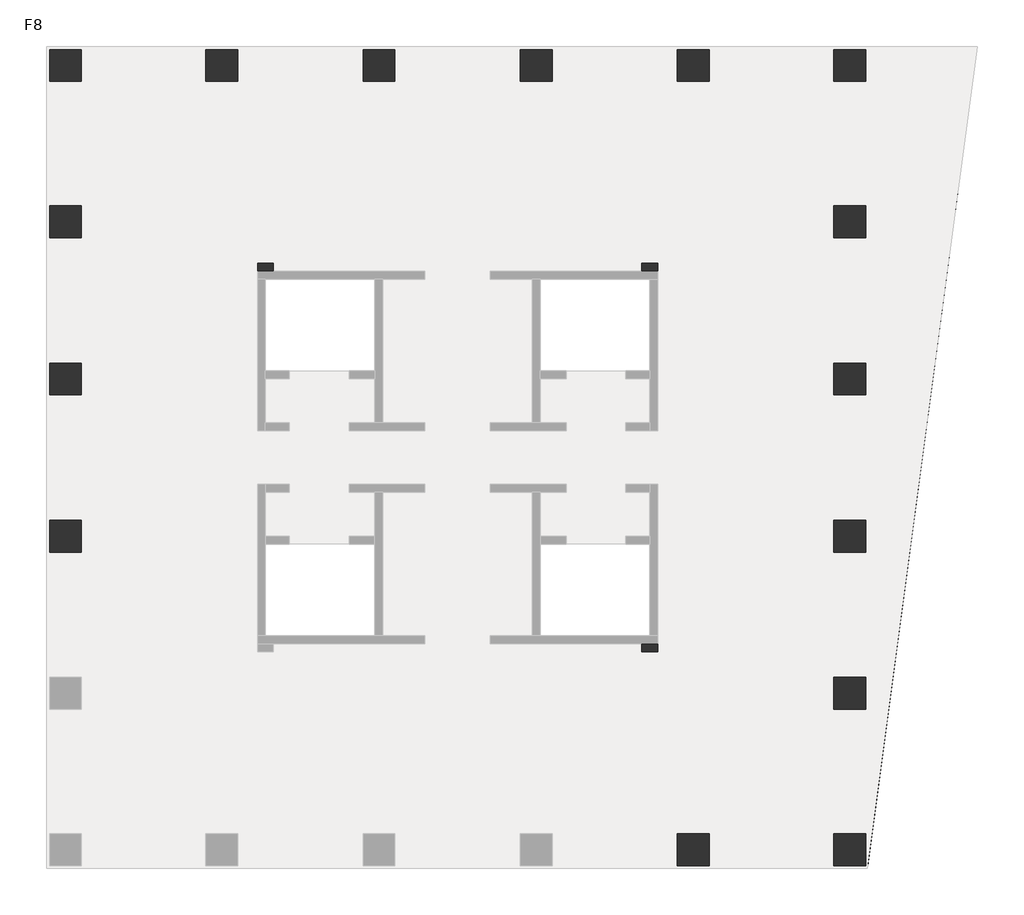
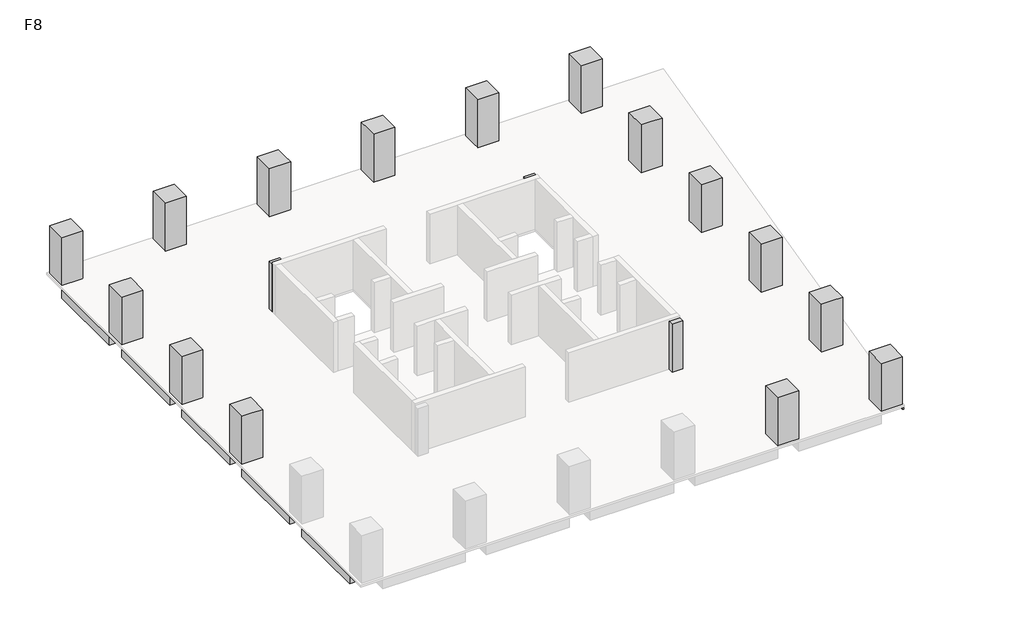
# One storey, part 2 of 2: 21 beams, 18 columns.
"""IFC4 building model written with IfcOpenShell, lengths in millimetres."""

from ifc_helpers import new_model, si_unit, frame, origin, place, context, project, spatial, polyline, outline, extrude, faceted_brep, element, save

model = new_model("IFC4")

# Units and contexts
model_context = context("Model", 3, world=origin())
ifc_project = project(units=[si_unit("LENGTHUNIT", "METRE", prefix="MILLI")], contexts=[model_context])

# Site, building, storey
site = spatial("IfcSite", under=ifc_project)
building = spatial("IfcBuilding", under=site)
storey = spatial("IfcBuildingStorey", under=building, Name="F8", Elevation=32000.0)

# Beams
placement = place(None, origin())
element("IfcBeam", 1, ObjectType="混凝土 - 矩形梁 : KL(5)-800x1000", at=placement, inside=storey, context=model_context, shape_type="SweptSolid", body=[
    extrude(outline(polyline([(25327.3257831, 27051.0498658), (25327.3257831, 26251.0498658), (19077.3257831, 26251.0498658), (19077.3257831, 27051.0498658), (25327.3257831, 27051.0498658)])), frame((0.0, 0.0, 31000.0), z_axis=(0.0, 0.0, 1.0), x_axis=(1.0, 0.0, 0.0)), (0.0, 0.0, 1.0), 840.0),
    extrude(outline(polyline([(-12472.6742169, 26251.0498658), (-12472.6742169, 27051.0498658), (-6222.6742169, 27051.0498658), (-6222.6742169, 26251.0498658), (-12472.6742169, 26251.0498658)])), frame((0.0, 0.0, 31000.0), z_axis=(0.0, 0.0, 1.0), x_axis=(1.0, 0.0, 0.0)), (0.0, 0.0, 1.0), 840.0),
    extrude(outline(polyline([(-4622.6742169, 26251.0498658), (-4622.6742169, 27051.0498658), (1677.3257831, 27051.0498658), (1677.3257831, 26251.0498658), (-4622.6742169, 26251.0498658)])), frame((0.0, 0.0, 31000.0), z_axis=(0.0, 0.0, 1.0), x_axis=(1.0, 0.0, 0.0)), (0.0, 0.0, 1.0), 840.0),
    extrude(outline(polyline([(3277.3257831, 26251.0498658), (3277.3257831, 27051.0498658), (9577.3257831, 27051.0498658), (9577.3257831, 26251.0498658), (3277.3257831, 26251.0498658)])), frame((0.0, 0.0, 31000.0), z_axis=(0.0, 0.0, 1.0), x_axis=(1.0, 0.0, 0.0)), (0.0, 0.0, 1.0), 840.0),
    extrude(outline(polyline([(11177.3257831, 26251.0498658), (11177.3257831, 27051.0498658), (17477.3257831, 27051.0498658), (17477.3257831, 26251.0498658), (11177.3257831, 26251.0498658)])), frame((0.0, 0.0, 31000.0), z_axis=(0.0, 0.0, 1.0), x_axis=(1.0, 0.0, 0.0)), (0.0, 0.0, 1.0), 840.0),
])
element("IfcBeam", 2, ObjectType="混凝土 - 矩形梁 : KL(5)-800x1000", at=placement, inside=storey, context=model_context, shape_type="Brep", body=[
    faceted_brep([(26927.3257831, 26251.0498658, 31000.0), (32422.0087099, 26251.0498658, 31000.0), (32422.0087099, 26251.0498658, 31840.0), (32018.4257091, 26251.0498658, 31840.0), (26927.3257831, 26251.0498658, 31840.0), (32422.0087099, 27051.0498658, 31000.0), (26927.3257831, 27051.0498658, 31000.0), (26927.3257831, 27051.0498658, 31840.0), (32422.0087099, 27051.0498658, 31840.0)], [[[0, 1, 2, 3, 4]], [[5, 1, 0, 6]], [[5, 6, 7, 8]], [[1, 5, 8, 2]], [[6, 0, 4, 7]], [[4, 3, 2, 8, 7]]]),
])
element("IfcBeam", 3, ObjectType="混凝土 - 矩形梁 : KL(5)-800x1000", at=placement, inside=storey, context=model_context, shape_type="Brep", body=[
    faceted_brep([(26127.3257831, -6098.9501342, 31000.0), (26127.3257831, -12348.9501342, 31000.0), (26127.3257831, -12348.9501342, 31840.0), (26127.3257831, -6098.9501342, 31840.0), (26927.3257831, -12348.9501342, 31000.0), (26927.3257831, -6098.9501342, 31000.0), (26927.3257831, -6098.9501342, 31840.0), (26927.3257831, -11700.7859463, 31840.0), (26927.3257831, -12348.9501342, 31840.0)], [[[0, 1, 2, 3]], [[4, 1, 0, 5]], [[4, 5, 6, 7, 8]], [[1, 4, 8, 2]], [[5, 0, 3, 6]], [[3, 2, 8, 7, 6]]]),
    faceted_brep([(26927.3257831, 25451.0498658, 31000.0), (26127.3257831, 25451.0498658, 31000.0), (26127.3257831, 25451.0498658, 31840.0), (26927.3257831, 25451.0498658, 31840.0), (26127.3257831, 19201.0498658, 31000.0), (26927.3257831, 19201.0498658, 31000.0), (26927.3257831, 19201.0498658, 31840.0), (26127.3257831, 19201.0498658, 31840.0)], [[[0, 1, 2, 3]], [[4, 5, 6, 7]], [[1, 4, 7, 2]], [[1, 0, 5, 4]], [[5, 0, 3, 6]], [[3, 2, 7, 6]]]),
    faceted_brep([(26927.3257831, 17601.0498658, 31000.0), (26127.3257831, 17601.0498658, 31000.0), (26127.3257831, 17601.0498658, 31840.0), (26927.3257831, 17601.0498658, 31840.0), (26127.3257831, 11301.0498658, 31000.0), (26927.3257831, 11301.0498658, 31000.0), (26927.3257831, 11301.0498658, 31840.0), (26127.3257831, 11301.0498658, 31840.0)], [[[0, 1, 2, 3]], [[4, 5, 6, 7]], [[1, 4, 7, 2]], [[1, 0, 5, 4]], [[5, 0, 3, 6]], [[3, 2, 7, 6]]]),
    faceted_brep([(26927.3257831, 9701.0498658, 31000.0), (26127.3257831, 9701.0498658, 31000.0), (26127.3257831, 9701.0498658, 31840.0), (26927.3257831, 9701.0498658, 31840.0), (26127.3257831, 3401.0498658, 31000.0), (26927.3257831, 3401.0498658, 31000.0), (26927.3257831, 3401.0498658, 31840.0), (26127.3257831, 3401.0498658, 31840.0)], [[[0, 1, 2, 3]], [[4, 5, 6, 7]], [[1, 4, 7, 2]], [[1, 0, 5, 4]], [[5, 0, 3, 6]], [[3, 2, 7, 6]]]),
    faceted_brep([(26927.3257831, 1801.0498658, 31000.0), (26127.3257831, 1801.0498658, 31000.0), (26127.3257831, 1801.0498658, 31840.0), (26927.3257831, 1801.0498658, 31840.0), (26127.3257831, -4498.9501342, 31000.0), (26927.3257831, -4498.9501342, 31000.0), (26927.3257831, -4498.9501342, 31840.0), (26127.3257831, -4498.9501342, 31840.0)], [[[0, 1, 2, 3]], [[4, 5, 6, 7]], [[1, 4, 7, 2]], [[1, 0, 5, 4]], [[5, 0, 3, 6]], [[3, 2, 7, 6]]]),
])
element("IfcBeam", 4, ObjectType="混凝土 - 矩形梁 : KL(5)-800x1000", at=placement, inside=storey, context=model_context, shape_type="SweptSolid", body=[
    extrude(outline(polyline([(-14072.6742169, 25451.0498658), (-13272.6742169, 25451.0498658), (-13272.6742169, 19201.0498658), (-14072.6742169, 19201.0498658), (-14072.6742169, 25451.0498658)])), frame((0.0, 0.0, 31000.0), z_axis=(0.0, 0.0, 1.0), x_axis=(1.0, 0.0, 0.0)), (0.0, 0.0, 1.0), 840.0),
    extrude(outline(polyline([(-13272.6742169, -12348.9501342), (-14072.6742169, -12348.9501342), (-14072.6742169, -6098.9501342), (-13272.6742169, -6098.9501342), (-13272.6742169, -12348.9501342)])), frame((0.0, 0.0, 31000.0), z_axis=(0.0, 0.0, 1.0), x_axis=(1.0, 0.0, 0.0)), (0.0, 0.0, 1.0), 840.0),
    extrude(outline(polyline([(-14072.6742169, 17601.0498658), (-13272.6742169, 17601.0498658), (-13272.6742169, 11301.0498658), (-14072.6742169, 11301.0498658), (-14072.6742169, 17601.0498658)])), frame((0.0, 0.0, 31000.0), z_axis=(0.0, 0.0, 1.0), x_axis=(1.0, 0.0, 0.0)), (0.0, 0.0, 1.0), 840.0),
    extrude(outline(polyline([(-14072.6742169, 9701.0498658), (-13272.6742169, 9701.0498658), (-13272.6742169, 3401.0498658), (-14072.6742169, 3401.0498658), (-14072.6742169, 9701.0498658)])), frame((0.0, 0.0, 31000.0), z_axis=(0.0, 0.0, 1.0), x_axis=(1.0, 0.0, 0.0)), (0.0, 0.0, 1.0), 840.0),
    extrude(outline(polyline([(-14072.6742169, 1801.0498658), (-13272.6742169, 1801.0498658), (-13272.6742169, -4498.9501342), (-14072.6742169, -4498.9501342), (-14072.6742169, 1801.0498658)])), frame((0.0, 0.0, 31000.0), z_axis=(0.0, 0.0, 1.0), x_axis=(1.0, 0.0, 0.0)), (0.0, 0.0, 1.0), 840.0),
])
element("IfcBeam", 5, ObjectType="混凝土 - 矩形梁 : L1-800x500", at=placement, inside=storey, context=model_context, shape_type="SweptSolid", body=[
    extrude(outline(polyline([(-12472.6742169, 2201.0498658), (-12472.6742169, 3001.0498658), (-3622.6742169, 3001.0498658), (-3622.6742169, 2201.0498658), (-12472.6742169, 2201.0498658)])), frame((0.0, 0.0, 31500.0), z_axis=(0.0, 0.0, 1.0), x_axis=(1.0, 0.0, 0.0)), (0.0, 0.0, 1.0), 340.0),
])
element("IfcBeam", 6, ObjectType="混凝土 - 矩形梁 : L1-800x500", at=placement, inside=storey, context=model_context, shape_type="SweptSolid", body=[
    extrude(outline(polyline([(-12472.6742169, 10101.0498658), (-12472.6742169, 10901.0498658), (-3622.6742169, 10901.0498658), (-3622.6742169, 10101.0498658), (-12472.6742169, 10101.0498658)])), frame((0.0, 0.0, 31500.0), z_axis=(0.0, 0.0, 1.0), x_axis=(1.0, 0.0, 0.0)), (0.0, 0.0, 1.0), 340.0),
])
element("IfcBeam", 7, ObjectType="混凝土 - 矩形梁 : L1-800x500", at=placement, inside=storey, context=model_context, shape_type="Brep", body=[
    faceted_brep([(-12472.6742169, 17789.85471, 31500.0), (-3622.6742169, 15588.3621727, 31500.0), (-3622.6742169, 15588.3621727, 31840.0), (-12472.6742169, 17789.85471, 31840.0), (-3173.6696907, 16301.0498658, 31500.0), (-3622.6742169, 16301.0498658, 31500.0), (-3622.6742169, 15901.0498658, 31500.0), (-12472.6742169, 18614.2350714, 31500.0), (-3746.9473979, 16443.6562607, 31500.0), (-12472.6742169, 18614.2350714, 31840.0), (-3746.9473979, 16443.6562607, 31840.0), (-3173.6696907, 16301.0498658, 31840.0), (-3622.6742169, 16301.0498658, 31840.0)], [[[0, 1, 2, 3]], [[4, 5, 6, 1, 0, 7, 8]], [[4, 8, 7, 9, 10, 11]], [[6, 5, 12, 2, 1]], [[5, 4, 11, 12]], [[7, 0, 3, 9]], [[3, 2, 12, 11, 10, 9]]]),
])
element("IfcBeam", 8, ObjectType="混凝土 - 矩形梁 : L1-800x500", at=placement, inside=storey, context=model_context, shape_type="SweptSolid", body=[
    extrude(outline(polyline([(-3173.6696907, 16301.0498658), (-3746.9473979, 16443.6562607), (-5661.5624638, 25451.0498658), (-4843.6893517, 25451.0498658), (-2898.7618154, 16301.0498658), (-3173.6696907, 16301.0498658)])), frame((0.0, 0.0, 31500.0), z_axis=(0.0, 0.0, 1.0), x_axis=(1.0, 0.0, 0.0)), (0.0, 0.0, 1.0), 340.0),
])
element("IfcBeam", 9, ObjectType="混凝土 - 矩形梁 : L1-800x500", at=placement, inside=storey, context=model_context, shape_type="SweptSolid", body=[
    extrude(outline(polyline([(2077.3257831, 25451.0498658), (2877.3257831, 25451.0498658), (2877.3257831, 15901.0498658), (2077.3257831, 15901.0498658), (2077.3257831, 25451.0498658)])), frame((0.0, 0.0, 31500.0), z_axis=(0.0, 0.0, 1.0), x_axis=(1.0, 0.0, 0.0)), (0.0, 0.0, 1.0), 340.0),
])
element("IfcBeam", 10, ObjectType="混凝土 - 矩形梁 : L1-800x500", at=placement, inside=storey, context=model_context, shape_type="SweptSolid", body=[
    extrude(outline(polyline([(9977.3257831, 25451.0498658), (10777.3257831, 25451.0498658), (10777.3257831, 15901.0498658), (9977.3257831, 15901.0498658), (9977.3257831, 25451.0498658)])), frame((0.0, 0.0, 31500.0), z_axis=(0.0, 0.0, 1.0), x_axis=(1.0, 0.0, 0.0)), (0.0, 0.0, 1.0), 340.0),
])
element("IfcBeam", 11, ObjectType="混凝土 - 矩形梁 : L1-800x500", at=placement, inside=storey, context=model_context, shape_type="Brep", body=[
    faceted_brep([(25327.3257831, -4687.7549784, 31500.0), (16477.3257831, -2486.2624411, 31500.0), (16477.3257831, -2486.2624411, 31840.0), (25327.3257831, -4687.7549784, 31840.0), (16028.3212569, -3198.9501342, 31500.0), (16477.3257831, -3198.9501342, 31500.0), (16477.3257831, -2798.9501342, 31500.0), (25327.3257831, -5512.1353397, 31500.0), (16601.5989641, -3341.556529, 31500.0), (25327.3257831, -5512.1353397, 31840.0), (16601.5989641, -3341.556529, 31840.0), (16028.3212569, -3198.9501342, 31840.0), (16477.3257831, -3198.9501342, 31840.0)], [[[0, 1, 2, 3]], [[4, 5, 6, 1, 0, 7, 8]], [[4, 8, 7, 9, 10, 11]], [[6, 5, 12, 2, 1]], [[5, 4, 11, 12]], [[7, 0, 3, 9]], [[3, 2, 12, 11, 10, 9]]]),
])
element("IfcBeam", 12, ObjectType="混凝土 - 矩形梁 : L1-800x500", at=placement, inside=storey, context=model_context, shape_type="SweptSolid", body=[
    extrude(outline(polyline([(16028.3212569, -3198.9501342), (16601.5989641, -3341.556529), (18516.21403, -12348.9501342), (17698.3409179, -12348.9501342), (15753.4133817, -3198.9501342), (16028.3212569, -3198.9501342)])), frame((0.0, 0.0, 31500.0), z_axis=(0.0, 0.0, 1.0), x_axis=(1.0, 0.0, 0.0)), (0.0, 0.0, 1.0), 340.0),
])
element("IfcBeam", 13, ObjectType="混凝土 - 矩形梁 : L1-800x500", at=placement, inside=storey, context=model_context, shape_type="SweptSolid", body=[
    extrude(outline(polyline([(25327.3257831, 3001.0498658), (25327.3257831, 2201.0498658), (16477.3257831, 2201.0498658), (16477.3257831, 3001.0498658), (25327.3257831, 3001.0498658)])), frame((0.0, 0.0, 31500.0), z_axis=(0.0, 0.0, 1.0), x_axis=(1.0, 0.0, 0.0)), (0.0, 0.0, 1.0), 340.0),
])
element("IfcBeam", 14, ObjectType="混凝土 - 矩形梁 : L1-800x500", at=placement, inside=storey, context=model_context, shape_type="SweptSolid", body=[
    extrude(outline(polyline([(25327.3257831, 10901.0498658), (25327.3257831, 10101.0498658), (16477.3257831, 10101.0498658), (16477.3257831, 10901.0498658), (25327.3257831, 10901.0498658)])), frame((0.0, 0.0, 31500.0), z_axis=(0.0, 0.0, 1.0), x_axis=(1.0, 0.0, 0.0)), (0.0, 0.0, 1.0), 340.0),
])
element("IfcBeam", 15, ObjectType="混凝土 - 矩形梁 : L1-800x500", at=placement, inside=storey, context=model_context, shape_type="Brep", body=[
    faceted_brep([(25327.3257831, 18610.6867312, 31500.0), (16590.8993897, 16393.3196262, 31500.0), (16227.3565337, 16301.0498658, 31500.0), (16227.3565337, 16301.0498658, 31840.0), (16590.8993897, 16393.3196262, 31840.0), (25327.3257831, 18610.6867312, 31840.0), (16477.3257831, 16301.0498658, 31500.0), (25327.3257831, 17785.3216299, 31500.0), (16477.3257831, 15539.1287365, 31500.0), (16477.3257831, 15901.0498658, 31500.0), (25327.3257831, 17785.3216299, 31840.0), (16477.3257831, 15539.1287365, 31840.0), (16477.3257831, 16301.0498658, 31840.0)], [[[0, 1, 2, 3, 4, 5]], [[6, 2, 1, 0, 7, 8, 9]], [[8, 7, 10, 11]], [[9, 8, 11, 12, 6]], [[2, 6, 12, 3]], [[7, 0, 5, 10]], [[5, 4, 3, 12, 11, 10]]]),
])
element("IfcBeam", 16, ObjectType="混凝土 - 矩形梁 : L1-800x500", at=placement, inside=storey, context=model_context, shape_type="SweptSolid", body=[
    extrude(outline(polyline([(16590.8993897, 16393.3196262), (16227.3565337, 16301.0498658), (15753.4133817, 16301.0498658), (17698.3409179, 25451.0498658), (18516.21403, 25451.0498658), (16590.8993897, 16393.3196262)])), frame((0.0, 0.0, 31500.0), z_axis=(0.0, 0.0, 1.0), x_axis=(1.0, 0.0, 0.0)), (0.0, 0.0, 1.0), 340.0),
])
element("IfcBeam", 17, ObjectType="混凝土 - 矩形梁 : L2-400x400", at=placement, inside=storey, context=model_context, shape_type="Brep", body=[
    faceted_brep([(32422.0087099, 26251.0498658, 31600.0), (27029.3257831, -13948.9501342, 31600.0), (26927.3257831, -13935.2672073, 31600.0), (26927.3257831, -11700.7859463, 31600.0), (27759.2793677, -5498.9501342, 31600.0), (27812.9379042, -5098.9501342, 31600.0), (28819.0354652, 2401.0498658, 31600.0), (28872.6940018, 2801.0498658, 31600.0), (29878.7915628, 10301.0498658, 31600.0), (29932.4500994, 10701.0498658, 31600.0), (30938.5476603, 18201.0498658, 31600.0), (30992.2061969, 18601.0498658, 31600.0), (32018.4257091, 26251.0498658, 31600.0), (32422.0087099, 26251.0498658, 31840.0), (27029.3257831, -13948.9501342, 31840.0), (32018.4257091, 26251.0498658, 31840.0), (26927.3257831, -13935.2672073, 31840.0), (26927.3257831, -12348.9501342, 31840.0), (26927.3257831, -11700.7859463, 31840.0), (27759.2793677, -5498.9501342, 31840.0), (27812.9379042, -5098.9501342, 31840.0), (28819.0354652, 2401.0498658, 31840.0), (28872.6940018, 2801.0498658, 31840.0), (29878.7915628, 10301.0498658, 31840.0), (29932.4500994, 10701.0498658, 31840.0), (30938.5476603, 18201.0498658, 31840.0), (30992.2061969, 18601.0498658, 31840.0)], [[[0, 1, 2, 3, 4, 5, 6, 7, 8, 9, 10, 11, 12]], [[1, 0, 13, 14]], [[0, 12, 15, 13]], [[3, 2, 16, 17, 18]], [[12, 11, 10, 9, 8, 7, 6, 5, 4, 3, 18, 19, 20, 21, 22, 23, 24, 25, 26, 15]], [[2, 1, 14, 16]], [[14, 13, 15, 26, 25, 24, 23, 22, 21, 20, 19, 18, 17, 16]]]),
])
element("IfcBeam", 18, ObjectType="混凝土 - 矩形梁 : L2-400x400", at=placement, inside=storey, context=model_context, shape_type="SweptSolid", body=[
    extrude(outline(polyline([(30938.5476603, 18201.0498658), (26927.3257831, 18201.0498658), (26927.3257831, 18601.0498658), (30992.2061969, 18601.0498658), (30938.5476603, 18201.0498658)])), frame((0.0, 0.0, 31600.0), z_axis=(0.0, 0.0, 1.0), x_axis=(1.0, 0.0, 0.0)), (0.0, 0.0, 1.0), 240.0),
])
element("IfcBeam", 19, ObjectType="混凝土 - 矩形梁 : L2-400x400", at=placement, inside=storey, context=model_context, shape_type="SweptSolid", body=[
    extrude(outline(polyline([(29878.7915628, 10301.0498658), (26927.3257831, 10301.0498658), (26927.3257831, 10701.0498658), (29932.4500994, 10701.0498658), (29878.7915628, 10301.0498658)])), frame((0.0, 0.0, 31600.0), z_axis=(0.0, 0.0, 1.0), x_axis=(1.0, 0.0, 0.0)), (0.0, 0.0, 1.0), 240.0),
])
element("IfcBeam", 20, ObjectType="混凝土 - 矩形梁 : L2-400x400", at=placement, inside=storey, context=model_context, shape_type="SweptSolid", body=[
    extrude(outline(polyline([(28819.0354652, 2401.0498658), (26927.3257831, 2401.0498658), (26927.3257831, 2801.0498658), (28872.6940018, 2801.0498658), (28819.0354652, 2401.0498658)])), frame((0.0, 0.0, 31600.0), z_axis=(0.0, 0.0, 1.0), x_axis=(1.0, 0.0, 0.0)), (0.0, 0.0, 1.0), 240.0),
])
element("IfcBeam", 21, ObjectType="混凝土 - 矩形梁 : L2-400x400", at=placement, inside=storey, context=model_context, shape_type="SweptSolid", body=[
    extrude(outline(polyline([(27759.2793677, -5498.9501342), (26927.3257831, -5498.9501342), (26927.3257831, -5098.9501342), (27812.9379042, -5098.9501342), (27759.2793677, -5498.9501342)])), frame((0.0, 0.0, 31600.0), z_axis=(0.0, 0.0, 1.0), x_axis=(1.0, 0.0, 0.0)), (0.0, 0.0, 1.0), 240.0),
])

# Columns
element("IfcColumn", 22, ObjectType="混凝土 - 矩形 - 柱 : Z1-1600x1600", at=placement, inside=storey, context=model_context, shape_type="SweptSolid", body=[
    extrude(outline(polyline([(-12472.6742169, 27051.0498658), (-12472.6742169, 25451.0498658), (-14072.6742169, 25451.0498658), (-14072.6742169, 27051.0498658), (-12472.6742169, 27051.0498658)])), frame((0.0, 0.0, 32000.0), z_axis=(0.0, 0.0, 1.0), x_axis=(1.0, 0.0, 0.0)), (0.0, 0.0, 1.0), 3840.0),
])
element("IfcColumn", 23, ObjectType="混凝土 - 矩形 - 柱 : Z1-1600x1600", at=placement, inside=storey, context=model_context, shape_type="Brep", body=[
    faceted_brep([(-4622.6742169, 27051.0498658, 32000.0), (-4622.6742169, 25451.0498658, 32000.0), (-6222.6742169, 25451.0498658, 32000.0), (-6222.6742169, 27051.0498658, 32000.0), (-4622.6742169, 27051.0498658, 35000.0), (-4622.6742169, 27051.0498658, 35840.0), (-4622.6742169, 26251.0498658, 35840.0), (-4622.6742169, 25451.0498658, 35840.0), (-6222.6742169, 25451.0498658, 35840.0), (-6222.6742169, 26251.0498658, 35840.0), (-6222.6742169, 27051.0498658, 35840.0), (-6222.6742169, 27051.0498658, 35000.0)], [[[0, 1, 2, 3]], [[1, 0, 4, 5, 6, 7]], [[2, 1, 7, 8]], [[3, 2, 8, 9, 10, 11]], [[0, 3, 11, 10, 5, 4]], [[7, 6, 5, 10, 9, 8]]]),
])
element("IfcColumn", 24, ObjectType="混凝土 - 矩形 - 柱 : Z1-1600x1600", at=placement, inside=storey, context=model_context, shape_type="Brep", body=[
    faceted_brep([(-12472.6742169, 19201.0498658, 32000.0), (-12472.6742169, 17601.0498658, 32000.0), (-14072.6742169, 17601.0498658, 32000.0), (-14072.6742169, 19201.0498658, 32000.0), (-12472.6742169, 19201.0498658, 35840.0), (-12472.6742169, 17601.0498658, 35840.0), (-13272.6742169, 17601.0498658, 35840.0), (-14072.6742169, 17601.0498658, 35840.0), (-14072.6742169, 17601.0498658, 35000.0), (-14072.6742169, 19201.0498658, 35840.0), (-14072.6742169, 19201.0498658, 35000.0), (-13272.6742169, 19201.0498658, 35840.0)], [[[0, 1, 2, 3]], [[1, 0, 4, 5]], [[2, 1, 5, 6, 7, 8]], [[3, 2, 8, 7, 9, 10]], [[0, 3, 10, 9, 11, 4]], [[5, 4, 11, 9, 7, 6]]]),
])
element("IfcColumn", 25, ObjectType="混凝土 - 矩形 - 柱 : Z1-1600x1600", at=placement, inside=storey, context=model_context, shape_type="Brep", body=[
    faceted_brep([(-12472.6742169, 11301.0498658, 32000.0), (-12472.6742169, 9701.0498658, 32000.0), (-14072.6742169, 9701.0498658, 32000.0), (-14072.6742169, 11301.0498658, 32000.0), (-12472.6742169, 11301.0498658, 35840.0), (-12472.6742169, 9701.0498658, 35840.0), (-13272.6742169, 9701.0498658, 35840.0), (-14072.6742169, 9701.0498658, 35840.0), (-14072.6742169, 9701.0498658, 35000.0), (-14072.6742169, 11301.0498658, 35840.0), (-14072.6742169, 11301.0498658, 35000.0), (-13272.6742169, 11301.0498658, 35840.0)], [[[0, 1, 2, 3]], [[1, 0, 4, 5]], [[2, 1, 5, 6, 7, 8]], [[3, 2, 8, 7, 9, 10]], [[0, 3, 10, 9, 11, 4]], [[5, 4, 11, 9, 7, 6]]]),
])
element("IfcColumn", 26, ObjectType="混凝土 - 矩形 - 柱 : Z1-1600x1600", at=placement, inside=storey, context=model_context, shape_type="Brep", body=[
    faceted_brep([(-12472.6742169, 3401.0498658, 32000.0), (-12472.6742169, 1801.0498658, 32000.0), (-14072.6742169, 1801.0498658, 32000.0), (-14072.6742169, 3401.0498658, 32000.0), (-12472.6742169, 3401.0498658, 35840.0), (-12472.6742169, 1801.0498658, 35840.0), (-13272.6742169, 1801.0498658, 35840.0), (-14072.6742169, 1801.0498658, 35840.0), (-14072.6742169, 1801.0498658, 35000.0), (-14072.6742169, 3401.0498658, 35840.0), (-14072.6742169, 3401.0498658, 35000.0), (-13272.6742169, 3401.0498658, 35840.0)], [[[0, 1, 2, 3]], [[1, 0, 4, 5]], [[2, 1, 5, 6, 7, 8]], [[3, 2, 8, 7, 9, 10]], [[0, 3, 10, 9, 11, 4]], [[5, 4, 11, 9, 7, 6]]]),
])
element("IfcColumn", 27, ObjectType="混凝土 - 矩形 - 柱 : Z1-1600x1600", at=placement, inside=storey, context=model_context, shape_type="SweptSolid", body=[
    extrude(outline(polyline([(25327.3257831, 27051.0498658), (26927.3257831, 27051.0498658), (26927.3257831, 25451.0498658), (25327.3257831, 25451.0498658), (25327.3257831, 27051.0498658)])), frame((0.0, 0.0, 32000.0), z_axis=(0.0, 0.0, 1.0), x_axis=(1.0, 0.0, 0.0)), (0.0, 0.0, 1.0), 3840.0),
])
element("IfcColumn", 28, ObjectType="混凝土 - 矩形 - 柱 : Z1-1600x1600", at=placement, inside=storey, context=model_context, shape_type="Brep", body=[
    faceted_brep([(25327.3257831, 19201.0498658, 32000.0), (26927.3257831, 19201.0498658, 32000.0), (26927.3257831, 17601.0498658, 32000.0), (25327.3257831, 17601.0498658, 32000.0), (25327.3257831, 17601.0498658, 35840.0), (25327.3257831, 19201.0498658, 35840.0), (26927.3257831, 17601.0498658, 35000.0), (26927.3257831, 17601.0498658, 35840.0), (26127.3257831, 17601.0498658, 35840.0), (26927.3257831, 19201.0498658, 35000.0), (26927.3257831, 19201.0498658, 35840.0), (26127.3257831, 19201.0498658, 35840.0)], [[[0, 1, 2, 3]], [[0, 3, 4, 5]], [[3, 2, 6, 7, 8, 4]], [[2, 1, 9, 10, 7, 6]], [[1, 0, 5, 11, 10, 9]], [[5, 4, 8, 7, 10, 11]]]),
])
element("IfcColumn", 29, ObjectType="混凝土 - 矩形 - 柱 : Z1-1600x1600", at=placement, inside=storey, context=model_context, shape_type="Brep", body=[
    faceted_brep([(25327.3257831, 11301.0498658, 32000.0), (26927.3257831, 11301.0498658, 32000.0), (26927.3257831, 9701.0498658, 32000.0), (25327.3257831, 9701.0498658, 32000.0), (25327.3257831, 9701.0498658, 35840.0), (25327.3257831, 11301.0498658, 35840.0), (26927.3257831, 9701.0498658, 35000.0), (26927.3257831, 9701.0498658, 35840.0), (26127.3257831, 9701.0498658, 35840.0), (26927.3257831, 11301.0498658, 35000.0), (26927.3257831, 11301.0498658, 35840.0), (26127.3257831, 11301.0498658, 35840.0)], [[[0, 1, 2, 3]], [[0, 3, 4, 5]], [[3, 2, 6, 7, 8, 4]], [[2, 1, 9, 10, 7, 6]], [[1, 0, 5, 11, 10, 9]], [[5, 4, 8, 7, 10, 11]]]),
])
element("IfcColumn", 30, ObjectType="混凝土 - 矩形 - 柱 : Z1-1600x1600", at=placement, inside=storey, context=model_context, shape_type="Brep", body=[
    faceted_brep([(25327.3257831, 3401.0498658, 32000.0), (26927.3257831, 3401.0498658, 32000.0), (26927.3257831, 1801.0498658, 32000.0), (25327.3257831, 1801.0498658, 32000.0), (25327.3257831, 1801.0498658, 35840.0), (25327.3257831, 3401.0498658, 35840.0), (26927.3257831, 1801.0498658, 35000.0), (26927.3257831, 1801.0498658, 35840.0), (26127.3257831, 1801.0498658, 35840.0), (26927.3257831, 3401.0498658, 35000.0), (26927.3257831, 3401.0498658, 35840.0), (26127.3257831, 3401.0498658, 35840.0)], [[[0, 1, 2, 3]], [[0, 3, 4, 5]], [[3, 2, 6, 7, 8, 4]], [[2, 1, 9, 10, 7, 6]], [[1, 0, 5, 11, 10, 9]], [[5, 4, 8, 7, 10, 11]]]),
])
element("IfcColumn", 31, ObjectType="混凝土 - 矩形 - 柱 : Z1-1600x1600", at=placement, inside=storey, context=model_context, shape_type="Brep", body=[
    faceted_brep([(25327.3257831, -4498.9501342, 32000.0), (26927.3257831, -4498.9501342, 32000.0), (26927.3257831, -6098.9501342, 32000.0), (25327.3257831, -6098.9501342, 32000.0), (25327.3257831, -6098.9501342, 35840.0), (25327.3257831, -4498.9501342, 35840.0), (26927.3257831, -6098.9501342, 35000.0), (26927.3257831, -6098.9501342, 35840.0), (26127.3257831, -6098.9501342, 35840.0), (26927.3257831, -4498.9501342, 35000.0), (26927.3257831, -4498.9501342, 35840.0), (26127.3257831, -4498.9501342, 35840.0)], [[[0, 1, 2, 3]], [[0, 3, 4, 5]], [[3, 2, 6, 7, 8, 4]], [[2, 1, 9, 10, 7, 6]], [[1, 0, 5, 11, 10, 9]], [[5, 4, 8, 7, 10, 11]]]),
])
element("IfcColumn", 32, ObjectType="混凝土 - 矩形 - 柱 : Z1-1600x1600", at=placement, inside=storey, context=model_context, shape_type="SweptSolid", body=[
    extrude(outline(polyline([(25327.3257831, -12348.9501342), (26927.3257831, -12348.9501342), (26927.3257831, -13948.9501342), (25327.3257831, -13948.9501342), (25327.3257831, -12348.9501342)])), frame((0.0, 0.0, 32000.0), z_axis=(0.0, 0.0, 1.0), x_axis=(1.0, 0.0, 0.0)), (0.0, 0.0, 1.0), 3840.0),
])
element("IfcColumn", 33, ObjectType="混凝土 - 矩形 - 柱 : Z1-1600x1600", at=placement, inside=storey, context=model_context, shape_type="Brep", body=[
    faceted_brep([(3277.3257831, 27051.0498658, 32000.0), (3277.3257831, 25451.0498658, 32000.0), (1677.3257831, 25451.0498658, 32000.0), (1677.3257831, 27051.0498658, 32000.0), (3277.3257831, 27051.0498658, 35000.0), (3277.3257831, 27051.0498658, 35840.0), (3277.3257831, 26251.0498658, 35840.0), (3277.3257831, 25451.0498658, 35840.0), (1677.3257831, 25451.0498658, 35840.0), (1677.3257831, 26251.0498658, 35840.0), (1677.3257831, 27051.0498658, 35840.0), (1677.3257831, 27051.0498658, 35000.0)], [[[0, 1, 2, 3]], [[1, 0, 4, 5, 6, 7]], [[2, 1, 7, 8]], [[3, 2, 8, 9, 10, 11]], [[0, 3, 11, 10, 5, 4]], [[7, 6, 5, 10, 9, 8]]]),
])
element("IfcColumn", 34, ObjectType="混凝土 - 矩形 - 柱 : Z1-1600x1600", at=placement, inside=storey, context=model_context, shape_type="Brep", body=[
    faceted_brep([(11177.3257831, 27051.0498658, 32000.0), (11177.3257831, 25451.0498658, 32000.0), (9577.3257831, 25451.0498658, 32000.0), (9577.3257831, 27051.0498658, 32000.0), (11177.3257831, 27051.0498658, 35000.0), (11177.3257831, 27051.0498658, 35840.0), (11177.3257831, 26251.0498658, 35840.0), (11177.3257831, 25451.0498658, 35840.0), (9577.3257831, 25451.0498658, 35840.0), (9577.3257831, 26251.0498658, 35840.0), (9577.3257831, 27051.0498658, 35840.0), (9577.3257831, 27051.0498658, 35000.0)], [[[0, 1, 2, 3]], [[1, 0, 4, 5, 6, 7]], [[2, 1, 7, 8]], [[3, 2, 8, 9, 10, 11]], [[0, 3, 11, 10, 5, 4]], [[7, 6, 5, 10, 9, 8]]]),
])
element("IfcColumn", 35, ObjectType="混凝土 - 矩形 - 柱 : Z1-1600x1600", at=placement, inside=storey, context=model_context, shape_type="Brep", body=[
    faceted_brep([(19077.3257831, 27051.0498658, 32000.0), (19077.3257831, 25451.0498658, 32000.0), (17477.3257831, 25451.0498658, 32000.0), (17477.3257831, 27051.0498658, 32000.0), (19077.3257831, 27051.0498658, 35000.0), (19077.3257831, 27051.0498658, 35840.0), (19077.3257831, 26251.0498658, 35840.0), (19077.3257831, 25451.0498658, 35840.0), (17477.3257831, 25451.0498658, 35840.0), (17477.3257831, 26251.0498658, 35840.0), (17477.3257831, 27051.0498658, 35840.0), (17477.3257831, 27051.0498658, 35000.0)], [[[0, 1, 2, 3]], [[1, 0, 4, 5, 6, 7]], [[2, 1, 7, 8]], [[3, 2, 8, 9, 10, 11]], [[0, 3, 11, 10, 5, 4]], [[7, 6, 5, 10, 9, 8]]]),
])
element("IfcColumn", 36, ObjectType="混凝土 - 矩形 - 柱 : Z1-1600x1600", at=placement, inside=storey, context=model_context, shape_type="Brep", body=[
    faceted_brep([(19077.3257831, -12348.9501342, 32000.0), (19077.3257831, -13948.9501342, 32000.0), (17477.3257831, -13948.9501342, 32000.0), (17477.3257831, -12348.9501342, 32000.0), (19077.3257831, -12348.9501342, 35840.0), (19077.3257831, -13148.9501342, 35840.0), (19077.3257831, -13948.9501342, 35840.0), (19077.3257831, -13948.9501342, 35000.0), (17477.3257831, -13948.9501342, 35840.0), (17477.3257831, -13948.9501342, 35000.0), (17477.3257831, -13148.9501342, 35840.0), (17477.3257831, -12348.9501342, 35840.0)], [[[0, 1, 2, 3]], [[1, 0, 4, 5, 6, 7]], [[2, 1, 7, 6, 8, 9]], [[3, 2, 9, 8, 10, 11]], [[0, 3, 11, 4]], [[6, 5, 4, 11, 10, 8]]]),
])
element("IfcColumn", 37, ObjectType="混凝土 - 矩形 - 柱 : Z2-800x800", at=placement, inside=storey, context=model_context, shape_type="SweptSolid", body=[
    extrude(outline(polyline([(-3622.6742169, 16301.0498658), (-2822.6742169, 16301.0498658), (-2822.6742169, 15901.0498658), (-3622.6742169, 15901.0498658), (-3622.6742169, 16301.0498658)])), frame((0.0, 0.0, 32000.0), z_axis=(0.0, 0.0, 1.0), x_axis=(1.0, 0.0, 0.0)), (0.0, 0.0, 1.0), 3840.0),
])
element("IfcColumn", 38, ObjectType="混凝土 - 矩形 - 柱 : Z2-800x800", at=placement, inside=storey, context=model_context, shape_type="SweptSolid", body=[
    extrude(outline(polyline([(16477.3257831, -3198.9501342), (15677.3257831, -3198.9501342), (15677.3257831, -2798.9501342), (16477.3257831, -2798.9501342), (16477.3257831, -3198.9501342)])), frame((0.0, 0.0, 32000.0), z_axis=(0.0, 0.0, 1.0), x_axis=(1.0, 0.0, 0.0)), (0.0, 0.0, 1.0), 3840.0),
])
element("IfcColumn", 39, ObjectType="混凝土 - 矩形 - 柱 : Z2-800x800", at=placement, inside=storey, context=model_context, shape_type="SweptSolid", body=[
    extrude(outline(polyline([(15677.3257831, 16301.0498658), (16477.3257831, 16301.0498658), (16477.3257831, 15901.0498658), (15677.3257831, 15901.0498658), (15677.3257831, 16301.0498658)])), frame((0.0, 0.0, 32000.0), z_axis=(0.0, 0.0, 1.0), x_axis=(1.0, 0.0, 0.0)), (0.0, 0.0, 1.0), 3840.0),
])

save(model, "model.ifc")
